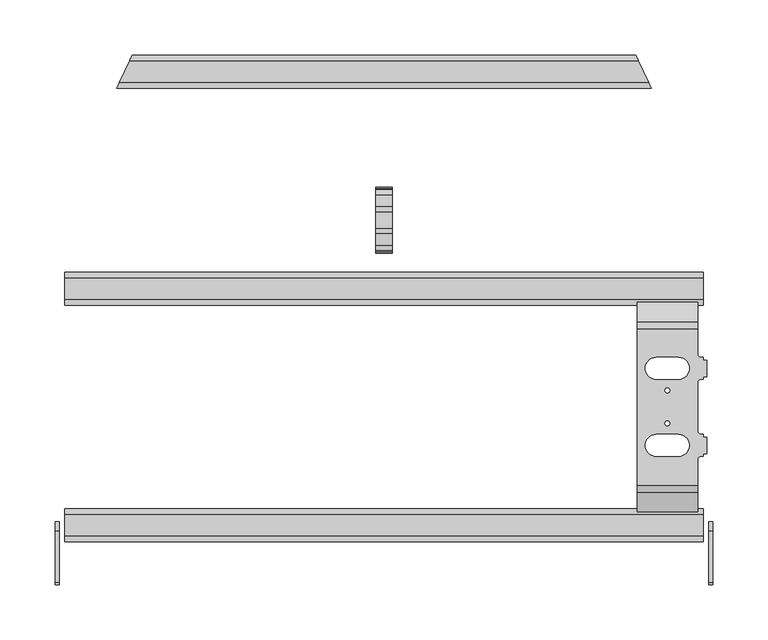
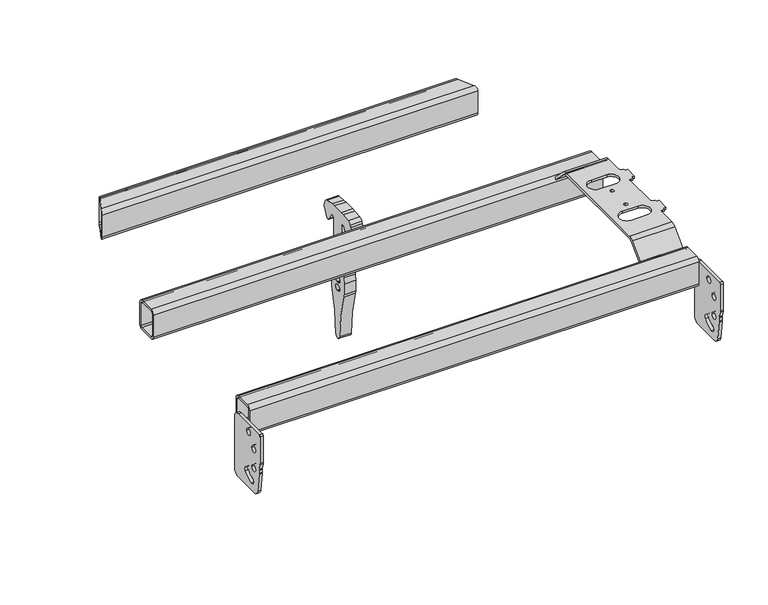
"""IFC4 building model written with IfcOpenShell, lengths in millimetres: proxy geometry, d&b CL-Series CCLi Flying Frame TOP : d&b CL-Series CCLi Flying Frame TOP."""

from ifc_helpers import new_model, si_unit, point, frame, frame_2d, origin, place, context, project, spatial, polyline, circle_curve, ellipse_curve, trimmed, segment, composite_curve, outline, extrude, source, transform, mapped, element, save
from ifc_brep_helpers import plane_surface, cylinder_surface, revolved_surface, advanced_brep


def communication_devices_39887777(model_context):
    return source(origin(), model_context, "Body", "SolidModel", [
        advanced_brep(
        [(230.0, 65.4816844, 64.4743251), (230.0, 83.3713203, 82.363961), (230.0, 89.7352814, 85.0), (230.0, 231.7647186, 85.0), (230.0, 238.1286797, 82.363961), (230.0, 256.0183156, 64.4743251), (230.0, 253.858835, 62.391165), (230.0, 236.0073593, 80.2426407), (230.0, 231.7647186, 82.0), (230.0, 89.7352814, 82.0), (230.0, 85.4926407, 80.2426407), (230.0, 67.641165, 62.391165), (285.0, 231.7647186, 82.0), (285.0, 236.0073593, 80.2426407), (285.0, 253.858835, 62.391165), (285.0, 256.0183156, 64.4743251), (285.0, 238.1286797, 82.363961), (285.0, 231.7647186, 85.0), (285.0, 208.75, 85.0), (285.0, 208.75, 82.0), (285.0, 65.4816844, 64.4743251), (285.0, 67.641165, 62.391165), (285.0, 85.4926407, 80.2426407), (285.0, 89.7352814, 82.0), (285.0, 112.75, 82.0), (285.0, 112.75, 85.0), (285.0, 89.7352814, 85.0), (285.0, 83.3713203, 82.363961), (285.0, 138.75, 82.0), (285.0, 182.75, 82.0), (285.0, 182.75, 85.0), (285.0, 138.75, 85.0), (288.0, 205.75, 82.0), (290.0, 205.75, 82.0), (290.0, 203.25, 82.0), (293.5, 203.25, 82.0), (293.5, 188.25, 82.0), (290.0, 188.25, 82.0), (290.0, 185.75, 82.0), (288.0, 185.75, 82.0), (288.0, 135.75, 82.0), (290.0, 135.75, 82.0), (290.0, 133.25, 82.0), (293.5, 133.25, 82.0), (293.5, 118.25, 82.0), (290.0, 118.25, 82.0), (290.0, 115.75, 82.0), (288.0, 115.75, 82.0), (247.5, 115.75, 82.0), (267.5, 115.75, 82.0), (267.5, 135.75, 82.0), (247.5, 135.75, 82.0), (247.5, 185.75, 82.0), (267.5, 185.75, 82.0), (267.5, 205.75, 82.0), (247.5, 205.75, 82.0), (257.5, 147.9437713, 82.0), (257.5, 143.5437713, 82.0), (257.5, 177.9562287, 82.0), (257.5, 173.5562287, 82.0), (288.0, 115.75, 85.0), (290.0, 115.75, 85.0), (290.0, 118.25, 85.0), (293.5, 118.25, 85.0), (293.5, 133.25, 85.0), (290.0, 133.25, 85.0), (290.0, 135.75, 85.0), (288.0, 135.75, 85.0), (288.0, 185.75, 85.0), (290.0, 185.75, 85.0), (290.0, 188.25, 85.0), (293.5, 188.25, 85.0), (293.5, 203.25, 85.0), (290.0, 203.25, 85.0), (290.0, 205.75, 85.0), (288.0, 205.75, 85.0), (267.5, 115.75, 85.0), (247.5, 115.75, 85.0), (247.5, 135.75, 85.0), (267.5, 135.75, 85.0), (267.5, 185.75, 85.0), (247.5, 185.75, 85.0), (247.5, 205.75, 85.0), (267.5, 205.75, 85.0), (257.5, 143.5437713, 85.0), (257.5, 147.9437713, 85.0), (257.5, 173.5562287, 85.0), (257.5, 177.9562287, 85.0)],
        [
            (0, 1),
            (1, 2, circle_curve(frame((230.0, 89.7352814, 76.0), z_axis=(-1.0, 0.0, 0.0), x_axis=(0.0, 1.0, 0.0)), 9.0)),
            (2, 3),
            (3, 4, circle_curve(frame((230.0, 231.7647186, 76.0), z_axis=(-1.0, 0.0, 0.0), x_axis=(0.0, 1.0, 0.0)), 9.0)),
            (4, 5),
            (5, 6, circle_curve(frame((230.0, 258.25, 60.0), z_axis=(1.0, 0.0, 0.0), x_axis=(0.0, 1.0, 0.0)), 5.0)),
            (6, 7),
            (7, 8, circle_curve(frame((230.0, 231.7647186, 76.0), z_axis=(1.0, 0.0, 0.0), x_axis=(0.0, 1.0, 0.0)), 6.0)),
            (8, 9),
            (9, 10, circle_curve(frame((230.0, 89.7352814, 76.0), z_axis=(1.0, 0.0, 0.0), x_axis=(0.0, 1.0, 0.0)), 6.0)),
            (10, 11),
            (11, 0, circle_curve(frame((230.0, 63.25, 60.0), z_axis=(1.0, 0.0, 0.0), x_axis=(0.0, 1.0, 0.0)), 5.0)),
            (12, 13, circle_curve(frame((285.0, 231.7647186, 76.0), z_axis=(-1.0, 0.0, 0.0), x_axis=(0.0, 1.0, 0.0)), 6.0)),
            (13, 14),
            (14, 15, circle_curve(frame((285.0, 258.25, 60.0), z_axis=(-1.0, 0.0, 0.0), x_axis=(0.0, 1.0, 0.0)), 5.0)),
            (15, 16),
            (16, 17, circle_curve(frame((285.0, 231.7647186, 76.0), z_axis=(1.0, 0.0, 0.0), x_axis=(0.0, 1.0, 0.0)), 9.0)),
            (17, 18),
            (18, 19),
            (19, 12),
            (20, 21, circle_curve(frame((285.0, 63.25, 60.0), z_axis=(-1.0, 0.0, 0.0), x_axis=(0.0, 1.0, 0.0)), 5.0)),
            (21, 22),
            (22, 23, circle_curve(frame((285.0, 89.7352814, 76.0), z_axis=(-1.0, 0.0, 0.0), x_axis=(0.0, 1.0, 0.0)), 6.0)),
            (23, 24),
            (24, 25),
            (25, 26),
            (26, 27, circle_curve(frame((285.0, 89.7352814, 76.0), z_axis=(1.0, 0.0, 0.0), x_axis=(0.0, 1.0, 0.0)), 9.0)),
            (27, 20),
            (28, 29),
            (29, 30),
            (30, 31),
            (31, 28),
            (11, 21),
            (20, 0),
            (10, 22),
            (9, 23),
            (8, 12),
            (19, 32, circle_curve(frame((288.0, 208.75, 82.0), z_axis=(0.0, 0.0, 1.0), x_axis=(0.0, 1.0, 0.0)), 3.0)),
            (32, 33),
            (33, 34),
            (34, 35),
            (35, 36),
            (36, 37),
            (37, 38),
            (38, 39),
            (39, 29, circle_curve(frame((288.0, 182.75, 82.0), z_axis=(0.0, 0.0, 1.0), x_axis=(0.0, 1.0, 0.0)), 3.0)),
            (28, 40, circle_curve(frame((288.0, 138.75, 82.0), z_axis=(0.0, 0.0, 1.0), x_axis=(0.0, 1.0, 0.0)), 3.0)),
            (40, 41),
            (41, 42),
            (42, 43),
            (43, 44),
            (44, 45),
            (45, 46),
            (46, 47),
            (47, 24, circle_curve(frame((288.0, 112.75, 82.0), z_axis=(0.0, 0.0, 1.0), x_axis=(0.0, 1.0, 0.0)), 3.0)),
            (48, 49),
            (49, 50, circle_curve(frame((267.5, 125.75, 82.0), z_axis=(0.0, 0.0, 1.0), x_axis=(0.0, 1.0, 0.0)), 10.0)),
            (50, 51),
            (51, 48, circle_curve(frame((247.5, 125.75, 82.0), z_axis=(0.0, 0.0, 1.0), x_axis=(0.0, 1.0, 0.0)), 10.0)),
            (52, 53),
            (53, 54, circle_curve(frame((267.5, 195.75, 82.0), z_axis=(0.0, 0.0, 1.0), x_axis=(0.0, 1.0, 0.0)), 10.0)),
            (54, 55),
            (55, 52, circle_curve(frame((247.5, 195.75, 82.0), z_axis=(0.0, 0.0, 1.0), x_axis=(0.0, 1.0, 0.0)), 10.0)),
            (56, 57, circle_curve(frame((257.5, 145.7437713, 82.0), z_axis=(0.0, 0.0, 1.0), x_axis=(0.0, 1.0, 0.0)), 2.2)),
            (57, 56, circle_curve(frame((257.5, 145.7437713, 82.0), z_axis=(0.0, 0.0, 1.0), x_axis=(0.0, 1.0, 0.0)), 2.2)),
            (58, 59, circle_curve(frame((257.5, 175.7562287, 82.0), z_axis=(0.0, 0.0, 1.0), x_axis=(0.0, 1.0, 0.0)), 2.2)),
            (59, 58, circle_curve(frame((257.5, 175.7562287, 82.0), z_axis=(0.0, 0.0, 1.0), x_axis=(0.0, 1.0, 0.0)), 2.2)),
            (7, 13),
            (6, 14),
            (5, 15),
            (4, 16),
            (3, 17),
            (2, 26),
            (25, 60, circle_curve(frame((288.0, 112.75, 85.0), z_axis=(0.0, 0.0, -1.0), x_axis=(0.0, 1.0, 0.0)), 3.0)),
            (60, 61),
            (61, 62),
            (62, 63),
            (63, 64),
            (64, 65),
            (65, 66),
            (66, 67),
            (67, 31, circle_curve(frame((288.0, 138.75, 85.0), z_axis=(0.0, 0.0, -1.0), x_axis=(0.0, 1.0, 0.0)), 3.0)),
            (30, 68, circle_curve(frame((288.0, 182.75, 85.0), z_axis=(0.0, 0.0, -1.0), x_axis=(0.0, 1.0, 0.0)), 3.0)),
            (68, 69),
            (69, 70),
            (70, 71),
            (71, 72),
            (72, 73),
            (73, 74),
            (74, 75),
            (75, 18, circle_curve(frame((288.0, 208.75, 85.0), z_axis=(0.0, 0.0, -1.0), x_axis=(0.0, 1.0, 0.0)), 3.0)),
            (76, 77),
            (77, 78, circle_curve(frame((247.5, 125.75, 85.0), z_axis=(0.0, 0.0, -1.0), x_axis=(0.0, 1.0, 0.0)), 10.0)),
            (78, 79),
            (79, 76, circle_curve(frame((267.5, 125.75, 85.0), z_axis=(0.0, 0.0, -1.0), x_axis=(0.0, 1.0, 0.0)), 10.0)),
            (80, 81),
            (81, 82, circle_curve(frame((247.5, 195.75, 85.0), z_axis=(0.0, 0.0, -1.0), x_axis=(0.0, 1.0, 0.0)), 10.0)),
            (82, 83),
            (83, 80, circle_curve(frame((267.5, 195.75, 85.0), z_axis=(0.0, 0.0, -1.0), x_axis=(0.0, 1.0, 0.0)), 10.0)),
            (84, 85, circle_curve(frame((257.5, 145.7437713, 85.0), z_axis=(0.0, 0.0, -1.0), x_axis=(0.0, 1.0, 0.0)), 2.2)),
            (85, 84, circle_curve(frame((257.5, 145.7437713, 85.0), z_axis=(0.0, 0.0, -1.0), x_axis=(0.0, 1.0, 0.0)), 2.2)),
            (86, 87, circle_curve(frame((257.5, 175.7562287, 85.0), z_axis=(0.0, 0.0, -1.0), x_axis=(0.0, 1.0, 0.0)), 2.2)),
            (87, 86, circle_curve(frame((257.5, 175.7562287, 85.0), z_axis=(0.0, 0.0, -1.0), x_axis=(0.0, 1.0, 0.0)), 2.2)),
            (1, 27),
            (48, 77),
            (76, 49),
            (51, 78),
            (50, 79),
            (52, 81),
            (80, 53),
            (55, 82),
            (54, 83),
            (56, 85),
            (84, 57),
            (58, 87),
            (86, 59),
            (67, 40),
            (66, 41),
            (65, 42),
            (64, 43),
            (63, 44),
            (62, 45),
            (61, 46),
            (60, 47),
            (75, 32),
            (74, 33),
            (73, 34),
            (72, 35),
            (71, 36),
            (70, 37),
            (69, 38),
            (68, 39),
        ],
        [
            plane_surface(frame((230.0, 83.3713203, 82.363961), z_axis=(-1.0, 0.0, 0.0), x_axis=(0.0, 0.7071067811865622, 0.7071067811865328))),
            plane_surface(frame((285.0, 83.3713203, 82.363961), z_axis=(1.0, 0.0, 0.0), x_axis=(0.0, -0.7071067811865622, -0.7071067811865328))),
            revolved_surface(polyline([(285.0, 68.25, 60.0), (230.0, 68.25, 60.0)]), (285.0, 63.25, 60.0), (1.0, 0.0, 0.0)),
            plane_surface(frame((230.0, 85.4926407, 80.2426407), z_axis=(0.0, 0.7071067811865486, -0.7071067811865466), x_axis=(1.0, 0.0, 0.0))),
            revolved_surface(polyline([(285.0, 95.7352814, 76.0), (230.0, 95.7352814, 76.0)]), (285.0, 89.7352814, 76.0), (1.0, 0.0, 0.0)),
            plane_surface(frame((230.0, 231.7647186, 82.0), z_axis=(0.0, 0.0, -1.0), x_axis=(1.0, 0.0, 0.0))),
            revolved_surface(polyline([(285.0, 237.7647186, 76.0), (230.0, 237.7647186, 76.0)]), (285.0, 231.7647186, 76.0), (1.0, 0.0, 0.0)),
            plane_surface(frame((230.0, 253.858835, 62.391165), z_axis=(0.0, -0.7071067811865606, -0.7071067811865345), x_axis=(1.0, 0.0, 0.0))),
            revolved_surface(polyline([(285.0, 263.25, 60.0), (230.0, 263.25, 60.0)]), (285.0, 258.25, 60.0), (1.0, 0.0, 0.0)),
            plane_surface(frame((230.0, 238.1286797, 82.363961), z_axis=(0.0, 0.7071067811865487, 0.7071067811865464), x_axis=(1.0, 0.0, 0.0))),
            cylinder_surface(frame((285.0, 231.7647186, 76.0), z_axis=(-1.0, 0.0, 0.0), x_axis=(0.0, 1.0, 0.0)), 9.0),
            plane_surface(frame((230.0, 89.7352814, 85.0), z_axis=(0.0, 0.0, 1.0), x_axis=(1.0, 0.0, 0.0))),
            cylinder_surface(frame((285.0, 89.7352814, 76.0), z_axis=(-1.0, 0.0, 0.0), x_axis=(0.0, 1.0, 0.0)), 9.0),
            plane_surface(frame((230.0, 65.4816844, 64.4743251), z_axis=(0.0, -0.7071067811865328, 0.7071067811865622), x_axis=(1.0, 0.0, 0.0))),
            plane_surface(frame((247.5, 115.75, 95.0), z_axis=(0.0, 1.0, 0.0), x_axis=(0.0, 0.0, -1.0))),
            revolved_surface(polyline([(247.5, 135.75, 85.0), (247.5, 135.75, 82.0)]), (247.5, 125.75, 75.0), (0.0, 0.0, 1.0)),
            plane_surface(frame((267.5, 135.75, 95.0), z_axis=(0.0, -1.0, 0.0), x_axis=(0.0, 0.0, -1.0))),
            revolved_surface(polyline([(267.5, 135.75, 85.0), (267.5, 135.75, 82.0)]), (267.5, 125.75, 75.0), (0.0, 0.0, 1.0)),
            plane_surface(frame((247.5, 185.75, 95.0), z_axis=(0.0, 1.0, 0.0), x_axis=(0.0, 0.0, -1.0))),
            revolved_surface(polyline([(247.5, 205.75, 85.0), (247.5, 205.75, 82.0)]), (247.5, 195.75, 85.0), (0.0, 0.0, 1.0)),
            plane_surface(frame((267.5, 205.75, 95.0), z_axis=(0.0, -1.0, 0.0), x_axis=(0.0, 0.0, -1.0))),
            revolved_surface(polyline([(267.5, 205.75, 85.0), (267.5, 205.75, 82.0)]), (267.5, 195.75, 85.0), (0.0, 0.0, 1.0)),
            revolved_surface(polyline([(257.5, 147.94377129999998, 85.0), (257.5, 147.94377129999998, 82.0)]), (257.5, 145.7437713, 85.0), (0.0, 0.0, 1.0)),
            revolved_surface(polyline([(257.5, 177.9562287, 85.0), (257.5, 177.9562287, 82.0)]), (257.5, 175.7562287, 85.0), (0.0, 0.0, 1.0)),
            revolved_surface(polyline([(288.0, 141.75, 82.0), (288.0, 141.75, 85.0)]), (288.0, 138.75, 82.0), (0.0, 0.0, -1.0)),
            plane_surface(frame((290.0, 135.75, 85.0), z_axis=(0.0, 1.0, 0.0), x_axis=(0.0, 0.0, -1.0))),
            plane_surface(frame((290.0, 133.25, 85.0), z_axis=(1.0, 0.0, 0.0), x_axis=(0.0, 0.0, -1.0))),
            plane_surface(frame((293.5, 133.25, 85.0), z_axis=(0.0, 1.0, 0.0), x_axis=(0.0, 0.0, -1.0))),
            plane_surface(frame((293.5, 118.25, 85.0), z_axis=(1.0, 0.0, 0.0), x_axis=(0.0, 0.0, -1.0))),
            plane_surface(frame((290.0, 118.25, 85.0), z_axis=(0.0, -1.0, 0.0), x_axis=(0.0, 0.0, -1.0))),
            plane_surface(frame((290.0, 115.75, 85.0), z_axis=(1.0, 0.0, 0.0), x_axis=(0.0, 0.0, -1.0))),
            plane_surface(frame((288.0, 115.75, 85.0), z_axis=(0.0, -1.0, 0.0), x_axis=(0.0, 0.0, -1.0))),
            revolved_surface(polyline([(288.0, 115.75, 82.0), (288.0, 115.75, 85.0)]), (288.0, 112.75, 82.0), (0.0, 0.0, -1.0)),
            revolved_surface(polyline([(288.0, 211.75, 82.0), (288.0, 211.75, 85.0)]), (288.0, 208.75, 85.0), (0.0, 0.0, -1.0)),
            plane_surface(frame((290.0, 205.75, 85.0), z_axis=(0.0, 1.0, 0.0), x_axis=(0.0, 0.0, -1.0))),
            plane_surface(frame((290.0, 203.25, 85.0), z_axis=(1.0, 0.0, 0.0), x_axis=(0.0, 0.0, -1.0))),
            plane_surface(frame((293.5, 203.25, 85.0), z_axis=(0.0, 1.0, 0.0), x_axis=(0.0, 0.0, -1.0))),
            plane_surface(frame((293.5, 188.25, 85.0), z_axis=(1.0, 0.0, 0.0), x_axis=(0.0, 0.0, -1.0))),
            plane_surface(frame((290.0, 188.25, 85.0), z_axis=(0.0, -1.0, 0.0), x_axis=(0.0, 0.0, -1.0))),
            plane_surface(frame((290.0, 185.75, 85.0), z_axis=(1.0, 0.0, 0.0), x_axis=(0.0, 0.0, -1.0))),
            plane_surface(frame((288.0, 185.75, 85.0), z_axis=(0.0, -1.0, 0.0), x_axis=(0.0, 0.0, -1.0))),
            revolved_surface(polyline([(288.0, 185.75, 82.0), (288.0, 185.75, 85.0)]), (288.0, 182.75, 85.0), (0.0, 0.0, -1.0)),
        ],
        [
            (0, [[1, 2, 3, 4, 5, 6, 7, 8, 9, 10, 11, 12]]),
            (1, [[13, 14, 15, 16, 17, 18, 19, 20]]),
            (1, [[21, 22, 23, 24, 25, 26, 27, 28]]),
            (1, [[29, 30, 31, 32]]),
            (2, [[-12, 33, -21, 34]]),
            (3, [[-11, 35, -22, -33]]),
            (4, [[-10, 36, -23, -35]]),
            (5, [[-9, 37, -20, 38, 39, 40, 41, 42, 43, 44, 45, 46, -29, 47, 48, 49, 50, 51, 52, 53, 54, 55, -24, -36], [56, 57, 58, 59], [60, 61, 62, 63], [64, 65], [66, 67]]),
            (6, [[-8, 68, -13, -37]]),
            (7, [[-7, 69, -14, -68]]),
            (8, [[-6, 70, -15, -69]]),
            (9, [[-5, 71, -16, -70]]),
            (10, [[-4, 72, -17, -71]]),
            (11, [[-3, 73, -26, 74, 75, 76, 77, 78, 79, 80, 81, 82, -31, 83, 84, 85, 86, 87, 88, 89, 90, 91, -18, -72], [92, 93, 94, 95], [96, 97, 98, 99], [100, 101], [102, 103]]),
            (12, [[-2, 104, -27, -73]]),
            (13, [[-1, -34, -28, -104]]),
            (14, [[105, -92, 106, -56]]),
            (15, [[-105, -59, 107, -93]]),
            (16, [[-107, -58, 108, -94]]),
            (17, [[-108, -57, -106, -95]]),
            (18, [[109, -96, 110, -60]]),
            (19, [[-109, -63, 111, -97]]),
            (20, [[-111, -62, 112, -98]]),
            (21, [[-112, -61, -110, -99]]),
            (22, [[113, -100, 114, -64]]),
            (22, [[-113, -65, -114, -101]]),
            (23, [[115, -102, 116, -66]]),
            (23, [[-115, -67, -116, -103]]),
            (24, [[-82, 117, -47, -32]]),
            (25, [[-81, 118, -48, -117]]),
            (26, [[-80, 119, -49, -118]]),
            (27, [[-79, 120, -50, -119]]),
            (28, [[-78, 121, -51, -120]]),
            (29, [[-77, 122, -52, -121]]),
            (30, [[-76, 123, -53, -122]]),
            (31, [[-75, 124, -54, -123]]),
            (32, [[-74, -25, -55, -124]]),
            (33, [[-91, 125, -38, -19]]),
            (34, [[-90, 126, -39, -125]]),
            (35, [[-89, 127, -40, -126]]),
            (36, [[-88, 128, -41, -127]]),
            (37, [[-87, 129, -42, -128]]),
            (38, [[-86, 130, -43, -129]]),
            (39, [[-85, 131, -44, -130]]),
            (40, [[-84, 132, -45, -131]]),
            (41, [[-83, -30, -46, -132]]),
        ],
    ),
        extrude(outline(composite_curve([segment(polyline([(321.25, 14.0), (321.25, 41.3387461)]), True, "CONTINUOUS"), segment(trimmed(circle_curve(frame_2d((318.1, 41.3387461)), 3.15), [point((321.25, 41.3387461))], [point((315.3187151, 42.8175815))], True, "CARTESIAN"), True, "CONTINUOUS"), segment(polyline([(315.3187151, 42.8175815), (310.6415816, 34.0211729)]), True, "CONTINUOUS"), segment(trimmed(circle_curve(frame_2d((308.2576231, 35.2887461)), 2.7), [point((310.6415816, 34.0211729))], [point((305.9193546, 33.9387461))], False, "CARTESIAN"), True, "CONTINUOUS"), segment(polyline([(305.9193546, 33.9387461), (301.7237206, 41.2057973)]), True, "CONTINUOUS"), segment(trimmed(circle_curve(frame_2d((311.25, 46.7057973)), 11.0), [point((301.7237206, 41.2057973))], [point((301.2806143, 51.3545982))], False, "CARTESIAN"), True, "CONTINUOUS"), segment(polyline([(301.2806143, 51.3545982), (302.4929747, 53.9545133)]), True, "CONTINUOUS"), segment(trimmed(circle_curve(frame_2d((307.9308214, 51.4188037)), 6.0), [point((302.4929747, 53.9545133))], [point((307.1996053, 57.3740807))], False, "CARTESIAN"), True, "CONTINUOUS"), segment(polyline([(307.1996053, 57.3740807), (317.9217311, 58.6905922)]), True, "CONTINUOUS"), segment(trimmed(circle_curve(frame_2d((322.7965048, 18.9887461)), 40.0), [point((317.9217311, 58.6905922))], [point((322.7965048, 58.9887461))], False, "CARTESIAN"), True, "CONTINUOUS"), segment(polyline([(322.7965048, 58.9887461), (337.7034952, 58.9887461)]), True, "CONTINUOUS"), segment(trimmed(circle_curve(frame_2d((337.7034952, 18.9887461)), 40.0), [point((337.7034952, 58.9887461))], [point((342.5782689, 58.6905922))], False, "CARTESIAN"), True, "CONTINUOUS"), segment(polyline([(342.5782689, 58.6905922), (353.3003947, 57.3740807)]), True, "CONTINUOUS"), segment(trimmed(circle_curve(frame_2d((352.5691786, 51.4188037)), 6.0), [point((353.3003947, 57.3740807))], [point((358.0070253, 53.9545133))], False, "CARTESIAN"), True, "CONTINUOUS"), segment(polyline([(358.0070253, 53.9545133), (359.2193857, 51.3545982)]), True, "CONTINUOUS"), segment(trimmed(circle_curve(frame_2d((349.25, 46.7057973)), 11.0), [point((359.2193857, 51.3545982))], [point((360.25, 46.7057973))], False, "CARTESIAN"), True, "CONTINUOUS"), segment(trimmed(circle_curve(frame_2d((349.25, 46.7057973)), 11.0), [point((360.25, 46.7057973))], [point((358.7762794, 41.2057973))], False, "CARTESIAN"), True, "CONTINUOUS"), segment(polyline([(358.7762794, 41.2057973), (354.5806454, 33.9387461)]), True, "CONTINUOUS"), segment(trimmed(circle_curve(frame_2d((352.2423769, 35.2887461)), 2.7), [point((354.5806454, 33.9387461))], [point((349.8584184, 34.0211729))], False, "CARTESIAN"), True, "CONTINUOUS"), segment(polyline([(349.8584184, 34.0211729), (345.1812849, 42.8175815)]), True, "CONTINUOUS"), segment(trimmed(circle_curve(frame_2d((342.4, 41.3387461)), 3.15), [point((345.1812849, 42.8175815))], [point((339.25, 41.3387461))], True, "CARTESIAN"), True, "CONTINUOUS"), segment(polyline([(339.25, 41.3387461), (339.25, 14.0), (339.25, -2.6888432)]), True, "CONTINUOUS"), segment(trimmed(circle_curve(frame_2d((379.25, -2.6888432)), 40.0), [point((339.25, -2.6888432))], [point((340.0907832, -10.8470133))], True, "CARTESIAN"), True, "CONTINUOUS"), segment(polyline([(340.0907832, -10.8470133), (343.4092168, -26.7754945)]), True, "CONTINUOUS"), segment(trimmed(circle_curve(frame_2d((304.25, -34.9336647)), 40.0), [point((343.4092168, -26.7754945))], [point((344.25, -34.9336647))], False, "CARTESIAN"), True, "CONTINUOUS"), segment(polyline([(344.25, -34.9336647), (344.25, -49.0112539)]), True, "CONTINUOUS"), segment(trimmed(circle_curve(frame_2d((330.25, -49.0112539)), 14.0), [point((344.25, -49.0112539))], [point((343.7142593, -52.8471008))], False, "CARTESIAN"), True, "CONTINUOUS"), segment(trimmed(circle_curve(frame_2d((585.4803454, -121.724094)), 251.3859196), [point((343.7142593, -52.8471008))], [point((334.2475633, -112.9508519))], True, "CARTESIAN"), True, "CONTINUOUS"), segment(trimmed(circle_curve(frame_2d((330.25, -112.8112539)), 4.0), [point((334.2475633, -112.9508519))], [point((326.2524367, -112.9508519))], False, "CARTESIAN"), True, "CONTINUOUS"), segment(trimmed(circle_curve(frame_2d((75.0196546, -121.724094)), 251.3859196), [point((326.2524367, -112.9508519))], [point((316.7857407, -52.8471008))], True, "CARTESIAN"), True, "CONTINUOUS"), segment(trimmed(circle_curve(frame_2d((330.25, -49.0112539)), 14.0), [point((316.7857407, -52.8471008))], [point((316.25, -49.0112539))], False, "CARTESIAN"), True, "CONTINUOUS"), segment(polyline([(316.25, -49.0112539), (316.25, -34.9336647)]), True, "CONTINUOUS"), segment(trimmed(circle_curve(frame_2d((356.25, -34.9336647)), 40.0), [point((316.25, -34.9336647))], [point((317.0907832, -26.7754945))], False, "CARTESIAN"), True, "CONTINUOUS"), segment(polyline([(317.0907832, -26.7754945), (320.4092168, -10.8470133)]), True, "CONTINUOUS"), segment(trimmed(circle_curve(frame_2d((281.25, -2.6888432)), 40.0), [point((320.4092168, -10.8470133))], [point((321.25, -2.6888432))], True, "CARTESIAN"), True, "CONTINUOUS"), segment(polyline([(321.25, -2.6888432), (321.25, 14.0)]), True, "CONTINUOUS")], self_intersect=False), holes=[composite_curve([segment(polyline([(329.5, -51.7612539), (331.0, -51.7612539)]), True, "CONTINUOUS"), segment(trimmed(circle_curve(frame_2d((331.0, -48.0112539)), 3.75), [point((331.0, -51.7612539))], [point((331.0, -44.2612539))], True, "CARTESIAN"), True, "CONTINUOUS"), segment(polyline([(331.0, -44.2612539), (329.5, -44.2612539)]), True, "CONTINUOUS"), segment(trimmed(circle_curve(frame_2d((329.5, -48.0112539)), 3.75), [point((329.5, -44.2612539))], [point((329.5, -51.7612539))], True, "CARTESIAN"), True, "CONTINUOUS")], self_intersect=False), composite_curve([segment(polyline([(329.5, -40.5612539), (331.0, -40.5612539)]), True, "CONTINUOUS"), segment(trimmed(circle_curve(frame_2d((331.0, -36.8112539)), 3.75), [point((331.0, -40.5612539))], [point((331.0, -33.0612539))], True, "CARTESIAN"), True, "CONTINUOUS"), segment(polyline([(331.0, -33.0612539), (329.5, -33.0612539)]), True, "CONTINUOUS"), segment(trimmed(circle_curve(frame_2d((329.5, -36.8112539)), 3.75), [point((329.5, -33.0612539))], [point((329.5, -40.5612539))], True, "CARTESIAN"), True, "CONTINUOUS")], self_intersect=False)]), frame((-7.5, 0.0, 0.0), z_axis=(1.0, 0.0, 0.0), x_axis=(0.0, 1.0, 0.0)), (0.0, 0.0, 1.0), 15.0),
        extrude(outline(composite_curve([segment(polyline([(56.25, 45.0), (56.25, -25.0)]), True, "CONTINUOUS"), segment(trimmed(circle_curve(frame_2d((48.25, -25.0)), 8.0), [point((56.25, -25.0))], [point((48.25, -33.0))], False, "CARTESIAN"), True, "CONTINUOUS"), segment(polyline([(48.25, -33.0), (12.3981638, -33.0)]), True, "CONTINUOUS"), segment(trimmed(circle_curve(frame_2d((12.3981638, -25.0)), 8.0), [point((12.3981638, -33.0))], [point((4.4621242, -26.0095918))], False, "CARTESIAN"), True, "CONTINUOUS"), segment(polyline([(4.4621242, -26.0095918), (1.3459406, -1.5143876)]), True, "CONTINUOUS"), segment(trimmed(circle_curve(frame_2d((13.25, 0.0)), 12.0), [point((1.3459406, -1.5143876))], [point((1.25, 0.0))], False, "CARTESIAN"), True, "CONTINUOUS"), segment(polyline([(1.25, 0.0), (1.25, 4.1218222)]), True, "CONTINUOUS"), segment(trimmed(circle_curve(frame_2d((-6.75, 4.1218222)), 8.0), [point((1.25, 4.1218222))], [point((1.0594965, 5.8572658))], True, "CARTESIAN"), True, "CONTINUOUS"), segment(polyline([(1.0594965, 5.8572658), (-0.5594965, 13.1427342)]), True, "CONTINUOUS"), segment(trimmed(circle_curve(frame_2d((7.25, 14.8781778)), 8.0), [point((-0.5594965, 13.1427342))], [point((-0.75, 14.8781778))], False, "CARTESIAN"), True, "CONTINUOUS"), segment(polyline([(-0.75, 14.8781778), (-0.75, 51.0)]), True, "CONTINUOUS"), segment(trimmed(circle_curve(frame_2d((1.25, 51.0)), 2.0), [point((-0.75, 51.0))], [point((1.25, 53.0))], False, "CARTESIAN"), True, "CONTINUOUS"), segment(polyline([(1.25, 53.0), (48.25, 53.0)]), True, "CONTINUOUS"), segment(trimmed(circle_curve(frame_2d((48.25, 45.0)), 8.0), [point((48.25, 53.0))], [point((56.25, 45.0))], False, "CARTESIAN"), True, "CONTINUOUS")], self_intersect=False), holes=[composite_curve([segment(trimmed(circle_curve(frame_2d((13.25, 0.0)), 4.15), [point((9.1, 0.0))], [point((17.4, 0.0))], True, "CARTESIAN"), True, "CONTINUOUS"), segment(trimmed(circle_curve(frame_2d((13.25, 0.0)), 4.15), [point((17.4, 0.0))], [point((9.1, 0.0))], True, "CARTESIAN"), True, "CONTINUOUS")], self_intersect=False), composite_curve([segment(trimmed(circle_curve(frame_2d((13.25, 0.0)), 15.85), [point((25.5677635, -9.9747282))], [point((16.8154742, -15.4437655))], False, "CARTESIAN"), True, "CONTINUOUS"), segment(trimmed(circle_curve(frame_2d((17.7490211, -19.4874013)), 4.15), [point((16.8154742, -15.4437655))], [point((13.5990211, -19.4874013))], True, "CARTESIAN"), True, "CONTINUOUS"), segment(trimmed(circle_curve(frame_2d((17.7490211, -19.4874013)), 4.15), [point((13.5990211, -19.4874013))], [point((18.682568, -23.5310371))], True, "CARTESIAN"), True, "CONTINUOUS"), segment(trimmed(circle_curve(frame_2d((13.25, 0.0)), 24.15), [point((18.682568, -23.5310371))], [point((32.018075, -15.1980874))], True, "CARTESIAN"), True, "CONTINUOUS"), segment(trimmed(circle_curve(frame_2d((28.7929192, -12.5864078)), 4.15), [point((32.018075, -15.1980874))], [point((25.5677635, -9.9747282))], True, "CARTESIAN"), True, "CONTINUOUS")], self_intersect=False), composite_curve([segment(trimmed(circle_curve(frame_2d((13.25, 26.0)), 4.15), [point((9.1, 26.0))], [point((17.4, 26.0))], True, "CARTESIAN"), True, "CONTINUOUS"), segment(trimmed(circle_curve(frame_2d((13.25, 26.0)), 4.15), [point((17.4, 26.0))], [point((9.1, 26.0))], True, "CARTESIAN"), True, "CONTINUOUS")], self_intersect=False), composite_curve([segment(trimmed(circle_curve(frame_2d((24.7215287, 42.3830409)), 4.15), [point((20.5715287, 42.3830409))], [point((28.8715287, 42.3830409))], True, "CARTESIAN"), True, "CONTINUOUS"), segment(trimmed(circle_curve(frame_2d((24.7215287, 42.3830409)), 4.15), [point((28.8715287, 42.3830409))], [point((20.5715287, 42.3830409))], True, "CARTESIAN"), True, "CONTINUOUS")], self_intersect=False)]), frame((295.0, 0.0, 0.0), z_axis=(1.0, 0.0, 0.0), x_axis=(0.0, 1.0, 0.0)), (0.0, 0.0, 1.0), 4.0),
        extrude(outline(composite_curve([segment(polyline([(56.25, 45.0), (56.25, -25.0)]), True, "CONTINUOUS"), segment(trimmed(circle_curve(frame_2d((48.25, -25.0)), 8.0), [point((56.25, -25.0))], [point((48.25, -33.0))], False, "CARTESIAN"), True, "CONTINUOUS"), segment(polyline([(48.25, -33.0), (12.3981638, -33.0)]), True, "CONTINUOUS"), segment(trimmed(circle_curve(frame_2d((12.3981638, -25.0)), 8.0), [point((12.3981638, -33.0))], [point((4.4621242, -26.0095918))], False, "CARTESIAN"), True, "CONTINUOUS"), segment(polyline([(4.4621242, -26.0095918), (1.3459406, -1.5143876)]), True, "CONTINUOUS"), segment(trimmed(circle_curve(frame_2d((13.25, 0.0)), 12.0), [point((1.3459406, -1.5143876))], [point((1.25, 0.0))], False, "CARTESIAN"), True, "CONTINUOUS"), segment(polyline([(1.25, 0.0), (1.25, 4.1218222)]), True, "CONTINUOUS"), segment(trimmed(circle_curve(frame_2d((-6.75, 4.1218222)), 8.0), [point((1.25, 4.1218222))], [point((1.0594965, 5.8572658))], True, "CARTESIAN"), True, "CONTINUOUS"), segment(polyline([(1.0594965, 5.8572658), (-0.5594965, 13.1427342)]), True, "CONTINUOUS"), segment(trimmed(circle_curve(frame_2d((7.25, 14.8781778)), 8.0), [point((-0.5594965, 13.1427342))], [point((-0.75, 14.8781778))], False, "CARTESIAN"), True, "CONTINUOUS"), segment(polyline([(-0.75, 14.8781778), (-0.75, 51.0)]), True, "CONTINUOUS"), segment(trimmed(circle_curve(frame_2d((1.25, 51.0)), 2.0), [point((-0.75, 51.0))], [point((1.25, 53.0))], False, "CARTESIAN"), True, "CONTINUOUS"), segment(polyline([(1.25, 53.0), (48.25, 53.0)]), True, "CONTINUOUS"), segment(trimmed(circle_curve(frame_2d((48.25, 45.0)), 8.0), [point((48.25, 53.0))], [point((56.25, 45.0))], False, "CARTESIAN"), True, "CONTINUOUS")], self_intersect=False), holes=[composite_curve([segment(trimmed(circle_curve(frame_2d((13.25, 0.0)), 4.15), [point((9.1, 0.0))], [point((17.4, 0.0))], True, "CARTESIAN"), True, "CONTINUOUS"), segment(trimmed(circle_curve(frame_2d((13.25, 0.0)), 4.15), [point((17.4, 0.0))], [point((9.1, 0.0))], True, "CARTESIAN"), True, "CONTINUOUS")], self_intersect=False), composite_curve([segment(trimmed(circle_curve(frame_2d((13.25, 0.0)), 15.85), [point((25.5677635, -9.9747282))], [point((16.8154742, -15.4437655))], False, "CARTESIAN"), True, "CONTINUOUS"), segment(trimmed(circle_curve(frame_2d((17.7490211, -19.4874013)), 4.15), [point((16.8154742, -15.4437655))], [point((13.5990211, -19.4874013))], True, "CARTESIAN"), True, "CONTINUOUS"), segment(trimmed(circle_curve(frame_2d((17.7490211, -19.4874013)), 4.15), [point((13.5990211, -19.4874013))], [point((18.682568, -23.5310371))], True, "CARTESIAN"), True, "CONTINUOUS"), segment(trimmed(circle_curve(frame_2d((13.25, 0.0)), 24.15), [point((18.682568, -23.5310371))], [point((32.018075, -15.1980874))], True, "CARTESIAN"), True, "CONTINUOUS"), segment(trimmed(circle_curve(frame_2d((28.7929192, -12.5864078)), 4.15), [point((32.018075, -15.1980874))], [point((25.5677635, -9.9747282))], True, "CARTESIAN"), True, "CONTINUOUS")], self_intersect=False), composite_curve([segment(trimmed(circle_curve(frame_2d((13.25, 26.0)), 4.15), [point((9.1, 26.0))], [point((17.4, 26.0))], True, "CARTESIAN"), True, "CONTINUOUS"), segment(trimmed(circle_curve(frame_2d((13.25, 26.0)), 4.15), [point((17.4, 26.0))], [point((9.1, 26.0))], True, "CARTESIAN"), True, "CONTINUOUS")], self_intersect=False), composite_curve([segment(trimmed(circle_curve(frame_2d((24.7215287, 42.3830409)), 4.15), [point((20.5715287, 42.3830409))], [point((28.8715287, 42.3830409))], True, "CARTESIAN"), True, "CONTINUOUS"), segment(trimmed(circle_curve(frame_2d((24.7215287, 42.3830409)), 4.15), [point((28.8715287, 42.3830409))], [point((20.5715287, 42.3830409))], True, "CARTESIAN"), True, "CONTINUOUS")], self_intersect=False)]), frame((-299.0, 0.0, 0.0), z_axis=(1.0, 0.0, 0.0), x_axis=(0.0, 1.0, 0.0)), (0.0, 0.0, 1.0), 4.0),
        advanced_brep(
        [(240.4271454, 455.5593298, 65.0), (-240.4271454, 455.5593298, 65.0), (-242.7586837, 450.5593298, 60.0), (242.7586837, 450.5593298, 60.0), (-242.7586837, 450.5593298, 30.0), (242.7586837, 450.5593298, 30.0), (-240.4271454, 455.5593298, 25.0), (240.4271454, 455.5593298, 25.0), (-231.1009922, 475.5593298, 25.0), (231.1009922, 475.5593298, 25.0), (-228.7694539, 480.5593298, 30.0), (228.7694539, 480.5593298, 30.0), (-228.7694539, 480.5593298, 60.0), (228.7694539, 480.5593298, 60.0), (-231.1009922, 475.5593298, 65.0), (231.1009922, 475.5593298, 65.0), (231.1009922, 475.5593298, 62.0), (-231.1009922, 475.5593298, 62.0), (-230.1683769, 477.5593298, 60.0), (230.1683769, 477.5593298, 60.0), (-230.1683769, 477.5593298, 30.0), (230.1683769, 477.5593298, 30.0), (-231.1009922, 475.5593298, 28.0), (231.1009922, 475.5593298, 28.0), (-240.4271454, 455.5593298, 28.0), (240.4271454, 455.5593298, 28.0), (-241.3597607, 453.5593298, 30.0), (241.3597607, 453.5593298, 30.0), (-241.3597607, 453.5593298, 60.0), (241.3597607, 453.5593298, 60.0), (-240.4271454, 455.5593298, 62.0), (240.4271454, 455.5593298, 62.0)],
        [
            (0, 1),
            (1, 2, ellipse_curve(frame((-240.4271454, 455.5593298, 60.0), z_axis=(0.9063077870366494, -0.4226182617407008, 0.0), x_axis=(0.42261826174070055, 0.9063077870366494, 0.0)), 5.5168896, 5.0)),
            (2, 3),
            (3, 0, ellipse_curve(frame((240.4271454, 455.5593298, 60.0), z_axis=(-0.9063077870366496, -0.42261826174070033, 0.0), x_axis=(0.4226182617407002, -0.9063077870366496, 0.0)), 5.5168896, 5.0)),
            (2, 4),
            (4, 5),
            (5, 3),
            (4, 6, ellipse_curve(frame((-240.4271454, 455.5593298, 30.0), z_axis=(0.9063077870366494, -0.4226182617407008, 0.0), x_axis=(0.42261826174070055, 0.9063077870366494, 0.0)), 5.5168896, 5.0)),
            (6, 7),
            (7, 5, ellipse_curve(frame((240.4271454, 455.5593298, 30.0), z_axis=(-0.9063077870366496, -0.42261826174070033, 0.0), x_axis=(0.4226182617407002, -0.9063077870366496, 0.0)), 5.5168896, 5.0)),
            (6, 8),
            (8, 9),
            (9, 7),
            (8, 10, ellipse_curve(frame((-231.1009922, 475.5593298, 30.0), z_axis=(0.9063077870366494, -0.4226182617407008, 0.0), x_axis=(0.42261826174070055, 0.9063077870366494, 0.0)), 5.5168896, 5.0)),
            (10, 11),
            (11, 9, ellipse_curve(frame((231.1009922, 475.5593298, 30.0), z_axis=(-0.9063077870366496, -0.42261826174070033, 0.0), x_axis=(0.4226182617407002, -0.9063077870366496, 0.0)), 5.5168896, 5.0)),
            (10, 12),
            (12, 13),
            (13, 11),
            (12, 14, ellipse_curve(frame((-231.1009922, 475.5593298, 60.0), z_axis=(0.9063077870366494, -0.4226182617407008, 0.0), x_axis=(0.42261826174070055, 0.9063077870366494, 0.0)), 5.5168896, 5.0)),
            (14, 15),
            (15, 13, ellipse_curve(frame((231.1009922, 475.5593298, 60.0), z_axis=(-0.9063077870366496, -0.42261826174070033, 0.0), x_axis=(0.4226182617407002, -0.9063077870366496, 0.0)), 5.5168896, 5.0)),
            (0, 15),
            (14, 1),
            (16, 17),
            (17, 18, ellipse_curve(frame((-231.1009922, 475.5593298, 60.0), z_axis=(-0.9063077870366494, 0.4226182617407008, 0.0), x_axis=(-0.42261826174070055, -0.9063077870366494, 0.0)), 2.2067558, 2.0)),
            (18, 19),
            (19, 16, ellipse_curve(frame((231.1009922, 475.5593298, 60.0), z_axis=(0.9063077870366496, 0.42261826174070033, 0.0), x_axis=(-0.4226182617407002, 0.9063077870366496, 0.0)), 2.2067558, 2.0)),
            (18, 20),
            (20, 21),
            (21, 19),
            (20, 22, ellipse_curve(frame((-231.1009922, 475.5593298, 30.0), z_axis=(-0.9063077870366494, 0.4226182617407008, 0.0), x_axis=(-0.42261826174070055, -0.9063077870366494, 0.0)), 2.2067558, 2.0)),
            (22, 23),
            (23, 21, ellipse_curve(frame((231.1009922, 475.5593298, 30.0), z_axis=(0.9063077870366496, 0.42261826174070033, 0.0), x_axis=(-0.4226182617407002, 0.9063077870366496, 0.0)), 2.2067558, 2.0)),
            (22, 24),
            (24, 25),
            (25, 23),
            (24, 26, ellipse_curve(frame((-240.4271454, 455.5593298, 30.0), z_axis=(-0.9063077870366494, 0.4226182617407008, 0.0), x_axis=(-0.42261826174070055, -0.9063077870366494, 0.0)), 2.2067558, 2.0)),
            (26, 27),
            (27, 25, ellipse_curve(frame((240.4271454, 455.5593298, 30.0), z_axis=(0.9063077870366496, 0.42261826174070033, 0.0), x_axis=(-0.4226182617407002, 0.9063077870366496, 0.0)), 2.2067558, 2.0)),
            (26, 28),
            (28, 29),
            (29, 27),
            (28, 30, ellipse_curve(frame((-240.4271454, 455.5593298, 60.0), z_axis=(-0.9063077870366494, 0.4226182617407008, 0.0), x_axis=(-0.42261826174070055, -0.9063077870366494, 0.0)), 2.2067558, 2.0)),
            (30, 31),
            (31, 29, ellipse_curve(frame((240.4271454, 455.5593298, 60.0), z_axis=(0.9063077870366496, 0.42261826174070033, 0.0), x_axis=(-0.4226182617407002, 0.9063077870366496, 0.0)), 2.2067558, 2.0)),
            (16, 31),
            (30, 17),
        ],
        [
            cylinder_surface(frame((-290.0, 455.5593298, 60.0), z_axis=(1.0, 0.0, 0.0), x_axis=(0.0, 1.0, 0.0)), 5.0),
            plane_surface(frame((290.0, 450.5593298, 60.0), z_axis=(0.0, -1.0, 0.0), x_axis=(-1.0, 0.0, 0.0))),
            cylinder_surface(frame((-290.0, 455.5593298, 30.0), z_axis=(1.0, 0.0, 0.0), x_axis=(0.0, 1.0, 0.0)), 5.0),
            plane_surface(frame((290.0, 455.5593298, 25.0), z_axis=(0.0, 0.0, -1.0), x_axis=(-1.0, 0.0, 0.0))),
            cylinder_surface(frame((-290.0, 475.5593298, 30.0), z_axis=(1.0, 0.0, 0.0), x_axis=(0.0, 1.0, 0.0)), 5.0),
            plane_surface(frame((290.0, 480.5593298, 30.0), z_axis=(0.0, 1.0, 0.0), x_axis=(-1.0, 0.0, 0.0))),
            cylinder_surface(frame((-290.0, 475.5593298, 60.0), z_axis=(1.0, 0.0, 0.0), x_axis=(0.0, 1.0, 0.0)), 5.0),
            plane_surface(frame((290.0, 475.5593298, 65.0), z_axis=(0.0, 0.0, 1.0), x_axis=(-1.0, 0.0, 0.0))),
            revolved_surface(polyline([(-232.03360750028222, 477.5593298, 60.0), (232.03360750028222, 477.5593298, 60.0)]), (0.0, 475.5593298, 60.0), (-1.0, 0.0, 0.0)),
            plane_surface(frame((290.0, 477.5593298, 60.0), z_axis=(0.0, -1.0, 0.0), x_axis=(-1.0, 0.0, 0.0))),
            revolved_surface(polyline([(-232.03360750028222, 477.5593298, 30.0), (232.03360750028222, 477.5593298, 30.0)]), (0.0, 475.5593298, 30.0), (-1.0, 0.0, 0.0)),
            plane_surface(frame((290.0, 475.5593298, 28.0), z_axis=(0.0, 0.0, 1.0), x_axis=(-1.0, 0.0, 0.0))),
            revolved_surface(polyline([(-241.3597607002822, 457.5593298, 30.0), (241.3597607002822, 457.5593298, 30.0)]), (0.0, 455.5593298, 30.0), (-1.0, 0.0, 0.0)),
            plane_surface(frame((290.0, 453.5593298, 30.0), z_axis=(0.0, 1.0, 0.0), x_axis=(-1.0, 0.0, 0.0))),
            revolved_surface(polyline([(-241.3597607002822, 457.5593298, 60.0), (241.3597607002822, 457.5593298, 60.0)]), (0.0, 455.5593298, 60.0), (-1.0, 0.0, 0.0)),
            plane_surface(frame((290.0, 455.5593298, 62.0), z_axis=(0.0, 0.0, -1.0), x_axis=(-1.0, 0.0, 0.0))),
            plane_surface(frame((-246.8736011, 441.7348609, 74.9561632), z_axis=(-0.9063077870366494, 0.4226182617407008, 0.0), x_axis=(0.0, 0.0, -1.0))),
            plane_surface(frame((223.5582182, 491.7348609, 74.9561632), z_axis=(0.9063077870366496, 0.42261826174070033, 0.0), x_axis=(0.0, 0.0, -1.0))),
        ],
        [
            (0, [[1, 2, 3, 4]]),
            (1, [[-3, 5, 6, 7]]),
            (2, [[-6, 8, 9, 10]]),
            (3, [[-9, 11, 12, 13]]),
            (4, [[-12, 14, 15, 16]]),
            (5, [[-15, 17, 18, 19]]),
            (6, [[-18, 20, 21, 22]]),
            (7, [[-1, 23, -21, 24]]),
            (8, [[25, 26, 27, 28]]),
            (9, [[-27, 29, 30, 31]]),
            (10, [[-30, 32, 33, 34]]),
            (11, [[-33, 35, 36, 37]]),
            (12, [[-36, 38, 39, 40]]),
            (13, [[-39, 41, 42, 43]]),
            (14, [[-42, 44, 45, 46]]),
            (15, [[-25, 47, -45, 48]]),
            (16, [[-2, -24, -20, -17, -14, -11, -8, -5], [-26, -48, -44, -41, -38, -35, -32, -29]]),
            (17, [[-4, -7, -10, -13, -16, -19, -22, -23], [-28, -31, -34, -37, -40, -43, -46, -47]]),
        ],
    ),
        extrude(outline(composite_curve([segment(polyline([(258.25, 65.0), (278.25, 65.0)]), True, "CONTINUOUS"), segment(trimmed(circle_curve(frame_2d((278.25, 60.0)), 5.0), [point((278.25, 65.0))], [point((283.25, 60.0))], False, "CARTESIAN"), True, "CONTINUOUS"), segment(polyline([(283.25, 60.0), (283.25, 30.0)]), True, "CONTINUOUS"), segment(trimmed(circle_curve(frame_2d((278.25, 30.0)), 5.0), [point((283.25, 30.0))], [point((278.25, 25.0))], False, "CARTESIAN"), True, "CONTINUOUS"), segment(polyline([(278.25, 25.0), (258.25, 25.0)]), True, "CONTINUOUS"), segment(trimmed(circle_curve(frame_2d((258.25, 30.0)), 5.0), [point((258.25, 25.0))], [point((253.25, 30.0))], False, "CARTESIAN"), True, "CONTINUOUS"), segment(polyline([(253.25, 30.0), (253.25, 60.0)]), True, "CONTINUOUS"), segment(trimmed(circle_curve(frame_2d((258.25, 60.0)), 5.0), [point((253.25, 60.0))], [point((258.25, 65.0))], False, "CARTESIAN"), True, "CONTINUOUS")], self_intersect=False), holes=[composite_curve([segment(polyline([(278.25, 62.0), (258.25, 62.0)]), True, "CONTINUOUS"), segment(trimmed(circle_curve(frame_2d((258.25, 60.0)), 2.0), [point((258.25, 62.0))], [point((256.25, 60.0))], True, "CARTESIAN"), True, "CONTINUOUS"), segment(polyline([(256.25, 60.0), (256.25, 30.0)]), True, "CONTINUOUS"), segment(trimmed(circle_curve(frame_2d((258.25, 30.0)), 2.0), [point((256.25, 30.0))], [point((258.25, 28.0))], True, "CARTESIAN"), True, "CONTINUOUS"), segment(polyline([(258.25, 28.0), (278.25, 28.0)]), True, "CONTINUOUS"), segment(trimmed(circle_curve(frame_2d((278.25, 30.0)), 2.0), [point((278.25, 28.0))], [point((280.25, 30.0))], True, "CARTESIAN"), True, "CONTINUOUS"), segment(polyline([(280.25, 30.0), (280.25, 60.0)]), True, "CONTINUOUS"), segment(trimmed(circle_curve(frame_2d((278.25, 60.0)), 2.0), [point((280.25, 60.0))], [point((278.25, 62.0))], True, "CARTESIAN"), True, "CONTINUOUS")], self_intersect=False)]), frame((-290.0, 0.0, 0.0), z_axis=(1.0, 0.0, 0.0), x_axis=(0.0, 1.0, 0.0)), (0.0, 0.0, 1.0), 580.0),
        extrude(outline(composite_curve([segment(polyline([(43.25, 65.0), (63.25, 65.0)]), True, "CONTINUOUS"), segment(trimmed(circle_curve(frame_2d((63.25, 60.0)), 5.0), [point((63.25, 65.0))], [point((68.25, 60.0))], False, "CARTESIAN"), True, "CONTINUOUS"), segment(polyline([(68.25, 60.0), (68.25, 30.0)]), True, "CONTINUOUS"), segment(trimmed(circle_curve(frame_2d((63.25, 30.0)), 5.0), [point((68.25, 30.0))], [point((63.25, 25.0))], False, "CARTESIAN"), True, "CONTINUOUS"), segment(polyline([(63.25, 25.0), (43.25, 25.0)]), True, "CONTINUOUS"), segment(trimmed(circle_curve(frame_2d((43.25, 30.0)), 5.0), [point((43.25, 25.0))], [point((38.25, 30.0))], False, "CARTESIAN"), True, "CONTINUOUS"), segment(polyline([(38.25, 30.0), (38.25, 60.0)]), True, "CONTINUOUS"), segment(trimmed(circle_curve(frame_2d((43.25, 60.0)), 5.0), [point((38.25, 60.0))], [point((43.25, 65.0))], False, "CARTESIAN"), True, "CONTINUOUS")], self_intersect=False), holes=[composite_curve([segment(polyline([(63.25, 62.0), (43.25, 62.0)]), True, "CONTINUOUS"), segment(trimmed(circle_curve(frame_2d((43.25, 60.0)), 2.0), [point((43.25, 62.0))], [point((41.25, 60.0))], True, "CARTESIAN"), True, "CONTINUOUS"), segment(polyline([(41.25, 60.0), (41.25, 30.0)]), True, "CONTINUOUS"), segment(trimmed(circle_curve(frame_2d((43.25, 30.0)), 2.0), [point((41.25, 30.0))], [point((43.25, 28.0))], True, "CARTESIAN"), True, "CONTINUOUS"), segment(polyline([(43.25, 28.0), (63.25, 28.0)]), True, "CONTINUOUS"), segment(trimmed(circle_curve(frame_2d((63.25, 30.0)), 2.0), [point((63.25, 28.0))], [point((65.25, 30.0))], True, "CARTESIAN"), True, "CONTINUOUS"), segment(polyline([(65.25, 30.0), (65.25, 60.0)]), True, "CONTINUOUS"), segment(trimmed(circle_curve(frame_2d((63.25, 60.0)), 2.0), [point((65.25, 60.0))], [point((63.25, 62.0))], True, "CARTESIAN"), True, "CONTINUOUS")], self_intersect=False)]), frame((-290.0, 0.0, 0.0), z_axis=(1.0, 0.0, 0.0), x_axis=(0.0, 1.0, 0.0)), (0.0, 0.0, 1.0), 580.0),
    ])


if __name__ == "__main__":
    model = new_model("IFC4")
    model_context = context("Model", 3, world=origin())
    ifc_project = project(units=[si_unit("LENGTHUNIT", "METRE", prefix="MILLI")], contexts=[model_context])
    site = spatial("IfcSite", under=ifc_project)
    building = spatial("IfcBuilding", under=site)
    placement = place(None, origin())
    communication_devices_shape = communication_devices_39887777(model_context)
    element("IfcBuildingElementProxy", 1, Name="d&b CL-Series CCLi Flying Frame TOP : d&b CL-Series CCLi Flying Frame TOP", ObjectType="d&b CL-Series CCLi Flying Frame TOP : d&b CL-Series CCLi Flying Frame TOP", at=placement, inside=building, context=model_context, shape_type="MappedRepresentation", body=[
        mapped(communication_devices_shape, transform((0.0, 0.0, 0.0), x_axis=(1.0, 0.0, 0.0), y_axis=(0.0, 1.0, 0.0), z_axis=(0.0, 0.0, 1.0))),
    ])
    save(model, "model.ifc")
